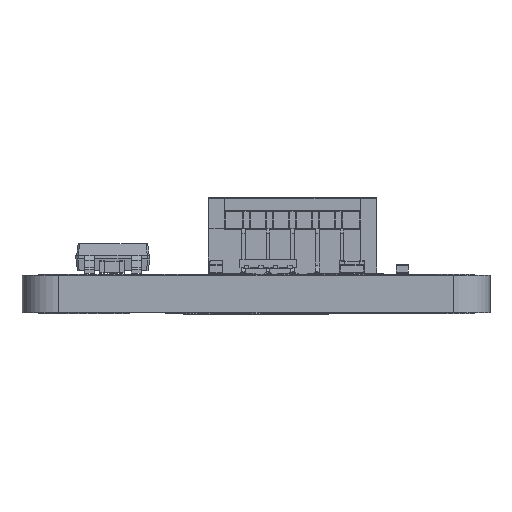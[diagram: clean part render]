
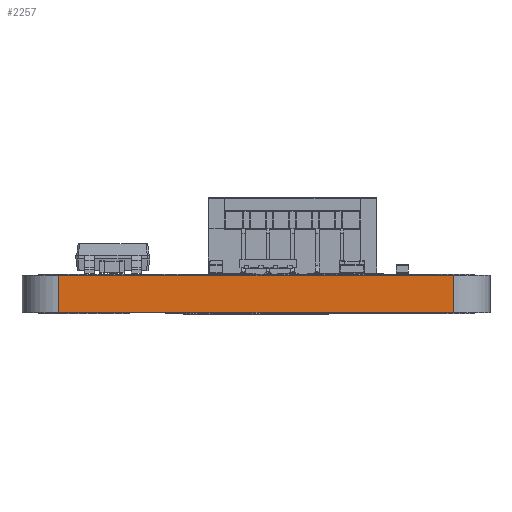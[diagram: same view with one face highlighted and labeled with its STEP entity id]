
A CAD part, left-side view. The second image highlights one B-rep face of the part: STEP entity #2257.
In plain terms, the highlighted planar face has unit normal (-1, 0, 0).
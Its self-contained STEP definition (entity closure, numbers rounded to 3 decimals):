
#2257=ADVANCED_FACE('',(#6251),#61297,.T.);
#6251=FACE_OUTER_BOUND('',#10263,.T.);
#10263=EDGE_LOOP('',(#14623,#14624,#14625,#14626));
#14623=ORIENTED_EDGE('',*,*,#33925,.T.);
#14624=ORIENTED_EDGE('',*,*,#33917,.F.);
#14625=ORIENTED_EDGE('',*,*,#33919,.F.);
#14626=ORIENTED_EDGE('',*,*,#33915,.T.);
#33915=EDGE_CURVE('',#54906,#54907,#47404,.T.);
#33917=EDGE_CURVE('',#54919,#54920,#47406,.T.);
#33919=EDGE_CURVE('',#54906,#54919,#47408,.T.);
#33925=EDGE_CURVE('',#54907,#54920,#47410,.T.);
#47404=B_SPLINE_CURVE_WITH_KNOTS('',1,(#78217,#78218),.UNSPECIFIED.,.F.,
 .F.,(2,2),(0.,16.),.UNSPECIFIED.);
#47406=B_SPLINE_CURVE_WITH_KNOTS('',1,(#78221,#78222),.UNSPECIFIED.,.F.,
 .F.,(2,2),(0.,16.),.UNSPECIFIED.);
#47408=B_SPLINE_CURVE_WITH_KNOTS('',1,(#78225,#78226),.UNSPECIFIED.,.F.,
 .F.,(2,2),(0.,1.516),.UNSPECIFIED.);
#47410=B_SPLINE_CURVE_WITH_KNOTS('',1,(#78241,#78242),.UNSPECIFIED.,.F.,
 .F.,(2,2),(0.,1.516),.UNSPECIFIED.);
#54906=VERTEX_POINT('',#78151);
#54907=VERTEX_POINT('',#78152);
#54919=VERTEX_POINT('',#78164);
#54920=VERTEX_POINT('',#78165);
#61297=PLANE('',#65060);
#65060=AXIS2_PLACEMENT_3D('',#78122,#70639,$);
#70639=DIRECTION('',(-1.,0.,0.));
#78122=CARTESIAN_POINT('',(-12.,-9.6,1.668));
#78151=CARTESIAN_POINT('',(-12.,8.,0.));
#78152=CARTESIAN_POINT('',(-12.,-8.,0.));
#78164=CARTESIAN_POINT('',(-12.,8.,1.516));
#78165=CARTESIAN_POINT('',(-12.,-8.,1.516));
#78217=CARTESIAN_POINT('',(-12.,8.,0.));
#78218=CARTESIAN_POINT('',(-12.,-8.,0.));
#78221=CARTESIAN_POINT('',(-12.,8.,1.516));
#78222=CARTESIAN_POINT('',(-12.,-8.,1.516));
#78225=CARTESIAN_POINT('',(-12.,8.,0.));
#78226=CARTESIAN_POINT('',(-12.,8.,1.516));
#78241=CARTESIAN_POINT('',(-12.,-8.,0.));
#78242=CARTESIAN_POINT('',(-12.,-8.,1.516));
